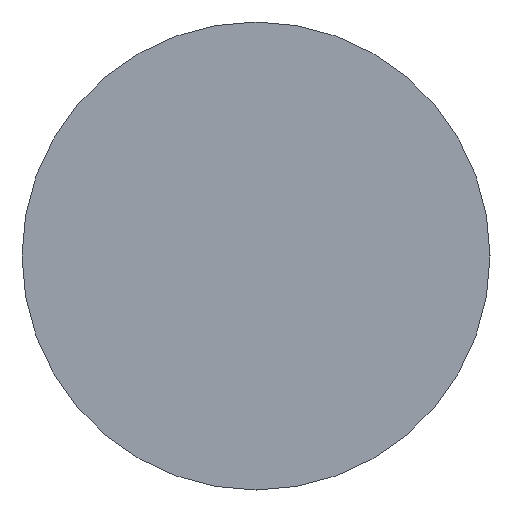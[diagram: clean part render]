
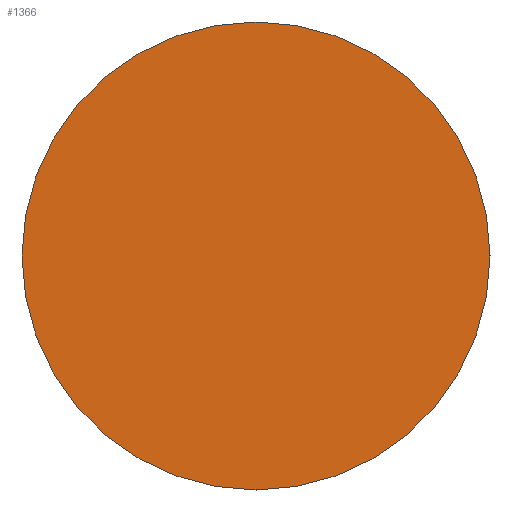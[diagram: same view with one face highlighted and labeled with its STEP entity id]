
A CAD part, front view. The second image highlights one B-rep face of the part: STEP entity #1366.
In plain terms, the highlighted planar face has unit normal (0, -1, 0).
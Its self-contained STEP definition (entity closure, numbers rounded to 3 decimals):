
#70 = FACE_OUTER_BOUND ( 'NONE', #1593, .T. ) ;
#372 = CARTESIAN_POINT ( 'NONE',  ( 0., -98., 37.5 ) ) ;
#384 = CARTESIAN_POINT ( 'NONE',  ( 0., -98., -37.5 ) ) ;
#648 = DIRECTION ( 'NONE',  ( 0., 0., 1. ) ) ;
#649 = DIRECTION ( 'NONE',  ( 0., 1., 0. ) ) ;
#650 = CARTESIAN_POINT ( 'NONE',  ( 0., -98., 0. ) ) ;
#1066 = AXIS2_PLACEMENT_3D ( 'NONE', #650, #649, #648 ) ;
#1068 = CIRCLE ( 'NONE', #1066, 37.5 ) ;
#1155 = AXIS2_PLACEMENT_3D ( 'NONE', #1825, #1824, #1823 ) ;
#1162 = AXIS2_PLACEMENT_3D ( 'NONE', #1847, #1846, #1845 ) ;
#1163 = CIRCLE ( 'NONE', #1155, 37.5 ) ;
#1234 = EDGE_CURVE ( 'NONE', #2206, #2202, #1068, .T. ) ;
#1366 = ADVANCED_FACE ( 'NONE', ( #70 ), #1848, .T. ) ;
#1371 = EDGE_CURVE ( 'NONE', #2202, #2206, #1163, .T. ) ;
#1481 = ORIENTED_EDGE ( 'NONE', *, *, #1371, .F. ) ;
#1483 = ORIENTED_EDGE ( 'NONE', *, *, #1234, .F. ) ;
#1593 = EDGE_LOOP ( 'NONE', ( #1483, #1481 ) ) ;
#1823 = DIRECTION ( 'NONE',  ( 0., 0., 1. ) ) ;
#1824 = DIRECTION ( 'NONE',  ( 0., 1., 0. ) ) ;
#1825 = CARTESIAN_POINT ( 'NONE',  ( 0., -98., 0. ) ) ;
#1845 = DIRECTION ( 'NONE',  ( 0., 0., -1. ) ) ;
#1846 = DIRECTION ( 'NONE',  ( 0., -1., 0. ) ) ;
#1847 = CARTESIAN_POINT ( 'NONE',  ( -37.5, -98., 0. ) ) ;
#1848 = PLANE ( 'NONE',  #1162 ) ;
#2202 = VERTEX_POINT ( 'NONE', #384 ) ;
#2206 = VERTEX_POINT ( 'NONE', #372 ) ;
